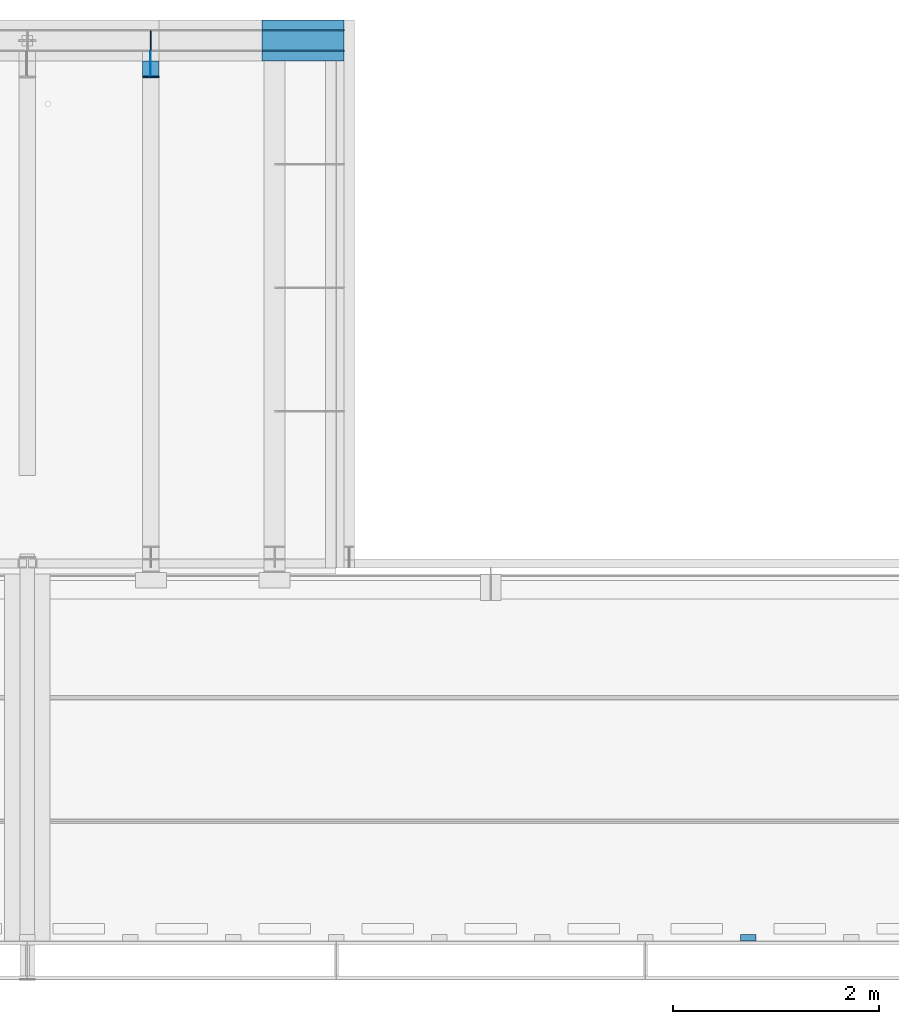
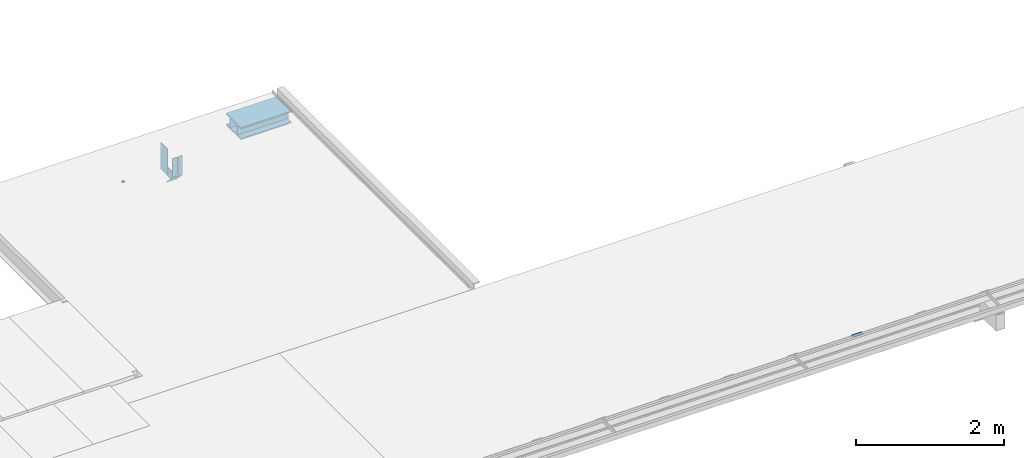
# One storey, part 6 of 13: 10 beams.
"""IFC2X3 building model written with IfcOpenShell, lengths in millimetres."""

import ifcopenshell
import ifcopenshell.guid

model = None  # the IFC model being written
_history = None  # IfcOwnerHistory: only IFC2X3 demands one
_inside = {}  # id of a spatial element -> (the spatial element, [elements in it])
_under = {}  # id of a project, library or spatial element -> (it, [spatial elements below it])
_declared = {}  # id of a project -> (the project, [libraries it declares])
_typed = {}  # id of a type object -> (the type object, [elements of that type])
_made_of = {}  # id of a material, layer set ... -> (it, [elements and type objects made of it])


def new_model(schema):
    """Start an empty IFC model of exactly this schema.

    Asked for "IFC4X3", IfcOpenShell would pick the latest addendum, in which some entities
    have other attributes; the version numbers below select the first issue.
    IFC2X3 requires an IfcOwnerHistory on every rooted entity: one is made here for all.
    """
    global model, _history
    if schema == "IFC4X3":
        model = ifcopenshell.file(schema_version=(4, 3, 0, 0))
    else:
        model = ifcopenshell.file(schema=schema)
    _inside.clear()
    _under.clear()
    _declared.clear()
    _typed.clear()
    _made_of.clear()
    _history = None
    if model.schema == "IFC2X3":
        org = make("IfcOrganization", Name="unknown")
        user = make(
            "IfcPersonAndOrganization",
            ThePerson=make("IfcPerson", FamilyName="unknown"),
            TheOrganization=org,
        )
        app = make(
            "IfcApplication",
            ApplicationDeveloper=org,
            Version="unknown",
            ApplicationFullName="unknown",
            ApplicationIdentifier="unknown",
        )
        _history = make(
            "IfcOwnerHistory",
            OwningUser=user,
            OwningApplication=app,
            ChangeAction="ADDED",
            CreationDate=0,
        )
    return model


def make(cls, **values):
    """One entity of the class cls with the attributes given. An attribute that is None is left unset."""
    return model.create_entity(
        cls, **{name: value for name, value in values.items() if value is not None}
    )


def entity(cls, *values):
    """Any entity or typed value of the class cls, its attributes in the order of the schema. None: left unset."""
    e = model.create_entity(cls)
    for i, value in enumerate(values):
        if value is not None:
            e[i] = value
    return e


def rooted(cls, **values):
    """An entity with a GlobalId (a new one), such as an element, a storey or a relation."""
    return make(cls, GlobalId=ifcopenshell.guid.new(), OwnerHistory=_history, **values)


def si_unit(unit_type, name, prefix=None):
    """IfcSIUnit, for example si_unit("LENGTHUNIT", "METRE", prefix="MILLI")."""
    return make("IfcSIUnit", UnitType=unit_type, Prefix=prefix, Name=name)


def converted_unit(unit_type, name, factor, base, dimensions=None, offset=None):
    """IfcConversionBasedUnit, such as the inch: factor (a typed value) times the base unit."""
    return make(
        "IfcConversionBasedUnit"
        if offset is None
        else "IfcConversionBasedUnitWithOffset",
        ConversionOffset=offset,
        Dimensions=None
        if dimensions is None
        else entity("IfcDimensionalExponents", *dimensions),
        UnitType=unit_type,
        Name=name,
        ConversionFactor=make(
            "IfcMeasureWithUnit", ValueComponent=factor, UnitComponent=base
        ),
    )


def derived_unit(unit_type, elements):
    """IfcDerivedUnit: a product of units, each with its exponent."""
    return make(
        "IfcDerivedUnit",
        Elements=[
            make("IfcDerivedUnitElement", Unit=unit, Exponent=power)
            for unit, power in elements
        ],
        UnitType=unit_type,
    )


def assignment(units):
    """IfcUnitAssignment: the units of a project."""
    return None if units is None else make("IfcUnitAssignment", Units=units)


def point(xyz):
    """IfcCartesianPoint."""
    return None if xyz is None else make("IfcCartesianPoint", Coordinates=xyz)


def direction(xyz):
    """IfcDirection."""
    return None if xyz is None else make("IfcDirection", DirectionRatios=xyz)


def frame(location, z_axis=None, x_axis=None):
    """IfcAxis2Placement3D, a coordinate frame: its origin and axes. An axis left out is left unset."""
    return make(
        "IfcAxis2Placement3D",
        Location=point(location),
        Axis=direction(z_axis),
        RefDirection=direction(x_axis),
    )


def origin_with_axes():
    """The frame at (0, 0, 0) with the z axis (0, 0, 1) and the x axis (1, 0, 0) written out."""
    return frame((0.0, 0.0, 0.0), z_axis=(0.0, 0.0, 1.0), x_axis=(1.0, 0.0, 0.0))


def place(relative_to, where):
    """IfcLocalPlacement: puts the frame where relative to a parent placement (None: the world)."""
    return make(
        "IfcLocalPlacement", PlacementRelTo=relative_to, RelativePlacement=where
    )


def context(
    kind, dimensions, precision=None, world=None, true_north=None, identifier=None
):
    """IfcGeometricRepresentationContext, for example the 3D "Model" context."""
    return make(
        "IfcGeometricRepresentationContext",
        ContextIdentifier=identifier,
        ContextType=kind,
        CoordinateSpaceDimension=dimensions,
        Precision=precision,
        WorldCoordinateSystem=world,
        TrueNorth=true_north,
    )


def subcontext(parent, identifier, kind, view, scale=None):
    """IfcGeometricRepresentationSubContext, for example "Body" below "Model"."""
    return make(
        "IfcGeometricRepresentationSubContext",
        ContextIdentifier=identifier,
        ContextType=kind,
        ParentContext=parent,
        TargetScale=scale,
        TargetView=view,
    )


def project(units=None, contexts=None):
    """IfcProject with its units and contexts."""
    return rooted(
        "IfcProject",
        Name="project",
        RepresentationContexts=contexts,
        UnitsInContext=assignment(units),
    )


def spatial(cls, under=None, at=None, **own):
    """A site, building, storey or space (cls), placed at a placement, below another one or the project."""
    s = rooted(cls, ObjectPlacement=at, **own)
    if under is not None:
        _under.setdefault(under.id(), (under, []))[1].append(s)
    return s


def faces_of(points, faces, orient=None, outer=None):
    """IfcFace entities. A face is a list of loops; a loop is a list of indices into points, from 0.

    orient and outer hold one flag for each loop. By default every Orientation is true, the
    first loop of a face is its IfcFaceOuterBound and the others are IfcFaceBound.
    """
    made = []
    for i, loops in enumerate(faces):
        bounds = []
        for j, loop in enumerate(loops):
            is_outer = j == 0 if outer is None else outer[i][j]
            bounds.append(
                make(
                    "IfcFaceOuterBound" if is_outer else "IfcFaceBound",
                    Bound=make("IfcPolyLoop", Polygon=[points[k] for k in loop]),
                    Orientation=True if orient is None else orient[i][j],
                )
            )
        made.append(make("IfcFace", Bounds=bounds))
    return made


def faceted_brep(points, faces, orient=None, outer=None, voids=None):
    """IfcFacetedBrep: a solid bounded by flat faces; with voids (closed shells), ...WithVoids."""
    shared = [point(p) for p in points]
    hull = make("IfcClosedShell", CfsFaces=faces_of(shared, faces, orient, outer))
    if voids is None:
        return make("IfcFacetedBrep", Outer=hull)
    return make(
        "IfcFacetedBrepWithVoids",
        Outer=hull,
        Voids=[
            make(cls, CfsFaces=faces_of(shared, fs, o, b)) for cls, fs, o, b in voids
        ],
    )


def shape(context_of_items, identifier, shape_type, items):
    """IfcShapeRepresentation: the items that make up one representation, for example the "Body"."""
    return make(
        "IfcShapeRepresentation",
        ContextOfItems=context_of_items,
        RepresentationIdentifier=identifier,
        RepresentationType=shape_type,
        Items=items,
    )


def material(Name=None, Category=None):
    """IfcMaterial."""
    return make("IfcMaterial", Name=Name, Category=Category)


def made_of(thing, what):
    """Note that an element or type object is made of a material, layer set ...; save() writes the relation."""
    if what is not None:
        _made_of.setdefault(what.id(), (what, []))[1].append(thing)
    return thing


def type_object(cls, material=None, **own):
    """A type object (cls), such as IfcWallType, which elements share."""
    return made_of(rooted(cls, **own), material)


def element(
    cls,
    number,
    at=None,
    inside=None,
    cuts=None,
    type_object=None,
    material=None,
    context=None,
    identifier="Body",
    shape_type=None,
    held_by="IfcProductDefinitionShape",
    body=None,
    shapes=None,
    **own,
):
    """One element of the class cls, such as IfcWall. Its Tag is "e" and its number.

    at: its placement. inside: the storey or other place that contains it. cuts: it is an
    opening in that element (IfcRelVoidsElement). A single representation is given by context,
    identifier, shape_type and body (its items); several are given by shapes. held_by: the class
    of the entity that holds the representations. save() writes the other relations.
    """
    e = rooted(cls, Tag="e%d" % number, ObjectPlacement=at, **own)
    if body is not None:
        shapes = [shape(context, identifier, shape_type, body)]
    if shapes is not None:
        e.Representation = make(held_by, Representations=shapes)
    if inside is not None:
        _inside.setdefault(inside.id(), (inside, []))[1].append(e)
    if cuts is not None:
        rooted(
            "IfcRelVoidsElement", RelatingBuildingElement=cuts, RelatedOpeningElement=e
        )
    if type_object is not None:
        _typed.setdefault(type_object.id(), (type_object, []))[1].append(e)
    return made_of(e, material)


def aggregate(whole, parts):
    """IfcRelAggregates: a whole, such as a stair, and the parts it consists of."""
    return rooted("IfcRelAggregates", RelatingObject=whole, RelatedObjects=parts)


def save(model, path):
    """Write the relations noted so far, then the file.

    IfcRelAggregates (storeys below a building ...), IfcRelContainedInSpatialStructure (elements
    in a storey), IfcRelDefinesByType, IfcRelAssociatesMaterial and IfcRelDeclares: one each for
    every whole, place, type object, material and project.
    """
    for whole, parts in _under.values():
        aggregate(whole, parts)
    for where, things in _inside.values():
        rooted(
            "IfcRelContainedInSpatialStructure",
            RelatedElements=things,
            RelatingStructure=where,
        )
    for kind, things in _typed.values():
        rooted("IfcRelDefinesByType", RelatedObjects=things, RelatingType=kind)
    for what, things in _made_of.values():
        rooted("IfcRelAssociatesMaterial", RelatedObjects=things, RelatingMaterial=what)
    for by, libraries in _declared.values():
        rooted("IfcRelDeclares", RelatingContext=by, RelatedDefinitions=libraries)
    model.write(path)


model = new_model("IFC2X3")

# Units and contexts
model_context = context("Model", 3, precision=0.01, world=frame((0.0, 4.29681676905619e-09, 0.0)), true_north=direction((4.01073788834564e-13, 1.0)))
plan_context = context("Plan", 3, precision=0.01, world=frame((0.0, 4.29681676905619e-09, 0.0)), true_north=direction((4.01073788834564e-13, 1.0)))
body_context = subcontext(model_context, "Body", "Model", "MODEL_VIEW")
ifc_project = project(units=[converted_unit("PLANEANGLEUNIT", "DEGREE", entity("IfcPositiveLengthMeasure", 0.0174532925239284), si_unit("PLANEANGLEUNIT", "RADIAN"), dimensions=[0, 0, 0, 0, 0, 0, 0]), si_unit("AREAUNIT", "SQUARE_METRE"), si_unit("LENGTHUNIT", "METRE", prefix="MILLI"), si_unit("MASSUNIT", "GRAM", prefix="KILO"), si_unit("POWERUNIT", "WATT"), si_unit("PRESSUREUNIT", "PASCAL", prefix="KILO"), si_unit("FORCEUNIT", "NEWTON", prefix="KILO"), si_unit("ELECTRICVOLTAGEUNIT", "VOLT"), si_unit("ELECTRICCURRENTUNIT", "AMPERE"), si_unit("THERMODYNAMICTEMPERATUREUNIT", "DEGREE_CELSIUS"), si_unit("TIMEUNIT", "SECOND"), si_unit("VOLUMEUNIT", "CUBIC_METRE"), derived_unit("LINEARVELOCITYUNIT", [(si_unit("LENGTHUNIT", "METRE"), 1), (si_unit("TIMEUNIT", "SECOND"), -1)]), derived_unit("VOLUMETRICFLOWRATEUNIT", [(si_unit("VOLUMEUNIT", "CUBIC_METRE"), 1), (si_unit("TIMEUNIT", "SECOND"), -1)]), derived_unit("THERMALTRANSMITTANCEUNIT", [(si_unit("POWERUNIT", "WATT"), 1), (si_unit("THERMODYNAMICTEMPERATUREUNIT", "KELVIN"), -1), (si_unit("AREAUNIT", "SQUARE_METRE"), -1)]), derived_unit("SOUNDPRESSUREUNIT", [(si_unit("PRESSUREUNIT", "PASCAL"), 1)])], contexts=[model_context, plan_context])

# Site, building, storey
site_placement = place(None, frame((0.0, -4.29681676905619e-09, 0.0), z_axis=(0.0, 0.0, 1.0), x_axis=(1.0, 0.0, 0.0)))
site = spatial("IfcSite", under=ifc_project, at=site_placement, Name="Gardermoen", CompositionType="ELEMENT")
building_placement = place(site_placement, frame((0.0, 4.29681676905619e-09, 0.0), z_axis=(0.0, 0.0, 1.0), x_axis=(1.0, 0.0, 0.0)))
building = spatial("IfcBuilding", under=site, at=building_placement, Name="TG", CompositionType="ELEMENT")
storey_placement = place(building_placement, origin_with_axes())
storey = spatial("IfcBuildingStorey", under=building, at=storey_placement, Name="G", CompositionType="ELEMENT", Elevation=0.0)

# Beams
ifc_material = material(Name="STEEL/S355")
beam_type_1 = type_object("IfcBeamType", Name="PL400*20", PredefinedType="NOTDEFINED")
beam_1_placement = place(storey_placement, frame((333280.000703, 467299.995625, 213380.0), z_axis=(0.0, 1.0, 0.0), x_axis=(1.0, 0.0, 0.0)))
element("IfcBeam", 1, at=beam_1_placement, inside=storey, type_object=beam_type_1, material=ifc_material, Name="STÅLBJELKE", ObjectType="PL400*20", context=body_context, shape_type="Brep", body=[
    faceted_brep([(794.999063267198, -7.64586729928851e-07, 200.0), (794.999062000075, -7.64586729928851e-07, -200.0), (744.999062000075, 10.0, -200.0), (744.999062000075, 10.0, 200.0), (0.0, -10.0, -200.0), (0.0, -10.0, 200.0), (0.0, 10.0, 200.0), (0.0, 10.0, -200.0), (794.999062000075, -10.0, -200.0), (794.999062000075, -10.0, 200.0)], [[[0, 1, 2, 3]], [[4, 5, 6, 7]], [[5, 4, 8, 9]], [[6, 5, 9, 0, 3]], [[7, 6, 3, 2]], [[8, 4, 7, 2, 1]], [[9, 8, 1, 0]]]),
])
beam_2_placement = place(storey_placement, frame((333280.000703, 467299.995625, 213560.0), z_axis=(0.0, 1.0, 0.0), x_axis=(1.0, 0.0, 0.0)))
element("IfcBeam", 2, at=beam_2_placement, inside=storey, type_object=beam_type_1, material=ifc_material, Name="STÅLBJELKE", ObjectType="PL400*20", context=body_context, shape_type="Brep", body=[
    faceted_brep([(0.0, 10.0, -200.0), (0.0, 10.0, 200.0), (794.999062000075, 10.0, 200.0), (794.999062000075, 10.0, -200.0), (0.0, -10.0, 200.0), (794.999062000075, -10.0, 200.0), (0.0, -10.0, -200.0), (794.999062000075, -10.0, -200.0)], [[[0, 1, 2, 3]], [[1, 4, 5, 2]], [[4, 6, 7, 5]], [[6, 0, 3, 7]], [[5, 7, 3, 2]], [[6, 4, 1, 0]]]),
])
beam_type_2 = type_object("IfcBeamType", Name="PL160*10", PredefinedType="NOTDEFINED")
for number, where, z_axis, x_axis in (
    (3, (333280.000703, 467199.995625, 213470.0), (0.0, 0.0, 1.0), (1.0, 0.0, 0.0)),
    (4, (333280.000703, 467399.995625, 213470.0), (0.0, 0.0, 1.0), (1.0, 0.0, 0.0)),
):
    element("IfcBeam", number, at=place(storey_placement, frame(where, z_axis=z_axis, x_axis=x_axis)), inside=storey, type_object=beam_type_2, material=ifc_material, Name="STÅLBJELKE", ObjectType="PL160*10", context=body_context, shape_type="Brep", body=[
        faceted_brep([(0.0, 5.0, -80.0), (0.0, 5.0, 80.0), (794.999062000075, 5.0, 80.0), (794.999062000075, 5.0, -80.0), (0.0, -5.0, 80.0), (794.999062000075, -5.0, 80.0), (0.0, -5.0, -80.0), (794.999062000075, -5.0, -80.0)], [[[0, 1, 2, 3]], [[1, 4, 5, 2]], [[4, 6, 7, 5]], [[6, 0, 3, 7]], [[5, 7, 3, 2]], [[6, 4, 1, 0]]]),
    ])
beam_type_3 = type_object("IfcBeamType", Name="PL160*12", PredefinedType="NOTDEFINED")
beam_3_placement = place(storey_placement, frame((332199.999765, 467095.681694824, 213085.829873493), z_axis=(1.0, 0.0, 0.0), x_axis=(0.0, -0.69502213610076, 0.718988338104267)))
element("IfcBeam", 5, at=beam_3_placement, inside=storey, type_object=beam_type_3, material=ifc_material, Name="STÅLBJELKE", ObjectType="PL160*12", context=body_context, shape_type="Brep", body=[
    faceted_brep([(-12.4137919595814, 6.0, -80.0), (-12.4137919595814, 6.0, 80.0), (220.226463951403, 5.99999999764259, 80.0), (220.226463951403, 5.99999999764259, -80.0), (-2.12108716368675e-07, -5.99999999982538, 80.0), (208.626462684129, -6.00000000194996, 80.0), (-2.12108716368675e-07, -5.99999999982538, -80.0), (208.626462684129, -6.00000000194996, -80.0)], [[[0, 1, 2, 3]], [[1, 4, 5, 2]], [[4, 6, 7, 5]], [[6, 0, 3, 7]], [[5, 7, 3, 2]], [[6, 4, 1, 0]]]),
])
beam_type_4 = type_object("IfcBeamType", Name="PL307*10", PredefinedType="NOTDEFINED")
for number, where, z_axis, x_axis in (
    (6, (332196.249765, 466949.995625, 213405.0), (0.0, 0.0, 1.0), (-1.0, 0.0, 0.0)),
    (7, (332203.750703, 466949.995625, 213405.0), (0.0, 0.0, 1.0), (1.0, 0.0, 0.0)),
):
    element("IfcBeam", number, at=place(storey_placement, frame(where, z_axis=z_axis, x_axis=x_axis)), inside=storey, type_object=beam_type_4, material=ifc_material, Name="STÅLBJELKE", ObjectType="PL307*10", context=body_context, shape_type="Brep", body=[
        faceted_brep([(0.0, 5.0, -153.5), (0.0, 5.0, 153.5), (76.2490620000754, 5.0, 153.5), (76.2490620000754, 5.0, -153.5), (0.0, -5.0, 153.5), (76.2490620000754, -5.0, 153.5), (0.0, -5.0, -153.5), (76.2490620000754, -5.0, -153.5)], [[[0, 1, 2, 3]], [[1, 4, 5, 2]], [[4, 6, 7, 5]], [[6, 0, 3, 7]], [[5, 7, 3, 2]], [[6, 4, 1, 0]]]),
    ])
beam_type_5 = type_object("IfcBeamType", Name="PL8*150", PredefinedType="NOTDEFINED")
beam_4_placement = place(storey_placement, frame((332196.000703, 467194.995625, 213090.0), z_axis=(0.0, -0.999999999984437, -5.57899998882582e-06), x_axis=(0.0, -5.57899998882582e-06, 0.999999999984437)))
element("IfcBeam", 8, at=beam_4_placement, inside=storey, type_object=beam_type_5, material=ifc_material, Name="STÅLBJELKE", ObjectType="PL8*150", context=body_context, shape_type="Brep", body=[
    faceted_brep([(0.0, -4.0, 0.0), (0.000519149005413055, -4.0, 95.0000000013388), (0.000519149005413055, 4.0, 95.0000000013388), (0.0, 4.0, 0.0), (150.001312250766, -4.0, 240.000000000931), (150.001312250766, 4.0, 240.000000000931), (149.999999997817, -4.0, -3.55066731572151e-09), (149.999999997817, 4.0, -3.55066731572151e-09)], [[[0, 1, 2, 3]], [[1, 4, 5, 2]], [[4, 6, 7, 5]], [[6, 0, 3, 7]], [[5, 7, 3, 2]], [[6, 4, 1, 0]]]),
])
beam_type_6 = type_object("IfcBeamType", Name="PL190*10", PredefinedType="NOTDEFINED")
beam_5_placement = place(storey_placement, frame((332200.000703, 467300.004375, 213530.0), z_axis=(0.0, -1.0, 0.0), x_axis=(0.0, 0.0, -1.0)))
element("IfcBeam", 9, at=beam_5_placement, inside=storey, type_object=beam_type_6, material=ifc_material, Name="STÅLBJELKE", ObjectType="PL190*10", context=body_context, shape_type="Brep", body=[
    faceted_brep([(0.0, 5.0, -95.0), (0.0, 5.0, 95.0), (439.999385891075, 5.0, 95.0), (439.999385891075, 5.0, -95.0), (0.0, -5.0, 95.0), (439.999385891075, -5.0, 95.0), (0.0, -5.0, -95.0), (439.999385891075, -5.0, -95.0)], [[[0, 1, 2, 3]], [[1, 4, 5, 2]], [[4, 6, 7, 5]], [[6, 0, 3, 7]], [[5, 7, 3, 2]], [[6, 4, 1, 0]]]),
])
beam_type_7 = type_object("IfcBeamType", Name="60*5", PredefinedType="NOTDEFINED")
beam_6_placement = place(storey_placement, frame((337925.002562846, 458589.999997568, 213662.631638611), z_axis=(0.0, -1.0, 0.0), x_axis=(1.0, 0.0, 0.0)))
element("IfcBeam", 10, at=beam_6_placement, inside=storey, type_object=beam_type_7, material=ifc_material, Name="STÅLBJELKE", ObjectType="60*5", context=body_context, shape_type="Brep", body=[
    faceted_brep([(0.0, 2.5, -30.0), (0.0, 2.5, 30.0), (150.0, 2.5, 30.0), (150.0, 2.5, -30.0), (0.0, -2.5, 30.0), (150.0, -2.5, 30.0), (0.0, -2.5, -30.0), (150.0, -2.5, -30.0)], [[[0, 1, 2, 3]], [[1, 4, 5, 2]], [[4, 6, 7, 5]], [[6, 0, 3, 7]], [[5, 7, 3, 2]], [[6, 4, 1, 0]]]),
])

save(model, "model.ifc")
